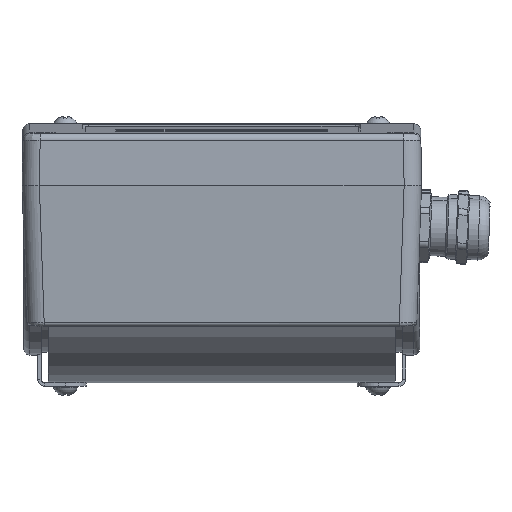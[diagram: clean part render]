
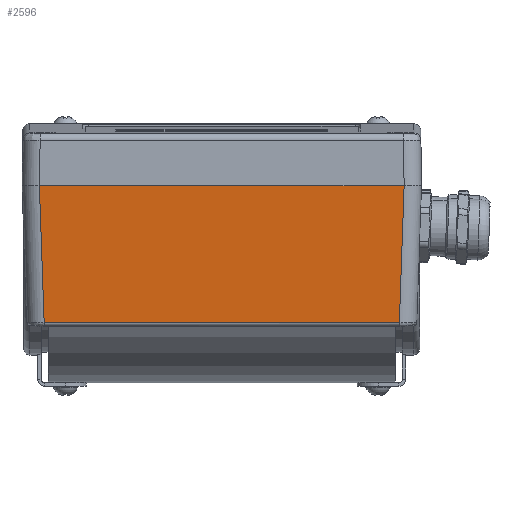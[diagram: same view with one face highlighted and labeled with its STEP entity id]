
A CAD part, top view. The second image highlights one B-rep face of the part: STEP entity #2596.
In plain terms, the highlighted planar face has unit normal (0, -0.07, 0.998).
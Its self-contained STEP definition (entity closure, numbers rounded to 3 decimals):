
#2596=ADVANCED_FACE('',(#10326),#10328,.T.);
#10326=FACE_BOUND('',#10327,.T.);
#10327=EDGE_LOOP('',(#23266,#23267,#23268,#23269,#23270,#23271));
#10328=PLANE('',#10329);
#10329=AXIS2_PLACEMENT_3D('',#10330,#10331,#10332);
#10330=CARTESIAN_POINT('',(-57.5,19.917,180.245));
#10331=DIRECTION('',(0.,-0.07,0.998));
#10332=DIRECTION('',(-1.,0.,0.));
#23266=ORIENTED_EDGE('',*,*,#27177,.F.);
#23267=ORIENTED_EDGE('',*,*,#27178,.T.);
#23268=ORIENTED_EDGE('',*,*,#27109,.F.);
#23269=ORIENTED_EDGE('',*,*,#27040,.F.);
#23270=ORIENTED_EDGE('',*,*,#27090,.F.);
#23271=ORIENTED_EDGE('',*,*,#27179,.T.);
#27040=EDGE_CURVE('',#29724,#29727,#29728,.T.);
#27090=EDGE_CURVE('',#29817,#29724,#29819,.T.);
#27109=EDGE_CURVE('',#29727,#29848,#29849,.T.);
#27177=EDGE_CURVE('',#29959,#29960,#29961,.F.);
#27178=EDGE_CURVE('',#29959,#29848,#29962,.T.);
#27179=EDGE_CURVE('',#29817,#29960,#29963,.T.);
#29724=VERTEX_POINT('',#36176);
#29727=VERTEX_POINT('',#36199);
#29728=LINE('',#36200,#36201);
#29817=VERTEX_POINT('',#36434);
#29819=LINE('',#36439,#36440);
#29848=VERTEX_POINT('',#36512);
#29849=LINE('',#36513,#36514);
#29959=VERTEX_POINT('',#36782);
#29960=VERTEX_POINT('',#36783);
#29961=LINE('',#36784,#36785);
#29962=LINE('',#36787,#36788);
#29963=LINE('',#36790,#36791);
#36176=CARTESIAN_POINT('',(51.122,-19.545,177.486));
#36199=CARTESIAN_POINT('',(-51.122,-19.545,177.486));
#36200=CARTESIAN_POINT('',(51.122,-19.545,177.486));
#36201=VECTOR('',#36202,1.);
#36202=DIRECTION('',(-1.,0.,0.));
#36434=CARTESIAN_POINT('',(52.503,19.917,180.245));
#36439=CARTESIAN_POINT('',(52.503,19.917,180.245));
#36440=VECTOR('',#36441,1.);
#36441=DIRECTION('',(-0.035,-0.997,-0.07));
#36512=CARTESIAN_POINT('',(-52.503,19.917,180.245));
#36513=CARTESIAN_POINT('',(-51.122,-19.545,177.486));
#36514=VECTOR('',#36515,1.);
#36515=DIRECTION('',(-0.035,0.997,0.07));
#36782=CARTESIAN_POINT('',(-52.501,19.917,180.245));
#36783=CARTESIAN_POINT('',(52.501,19.917,180.245));
#36784=CARTESIAN_POINT('',(52.501,19.917,180.245));
#36785=VECTOR('',#36786,1.);
#36786=DIRECTION('',(-1.,0.,0.));
#36787=CARTESIAN_POINT('',(-52.501,19.917,180.245));
#36788=VECTOR('',#36789,1.);
#36789=DIRECTION('',(-1.,0.,0.));
#36790=CARTESIAN_POINT('',(52.503,19.917,180.245));
#36791=VECTOR('',#36792,1.);
#36792=DIRECTION('',(-1.,0.,0.));
